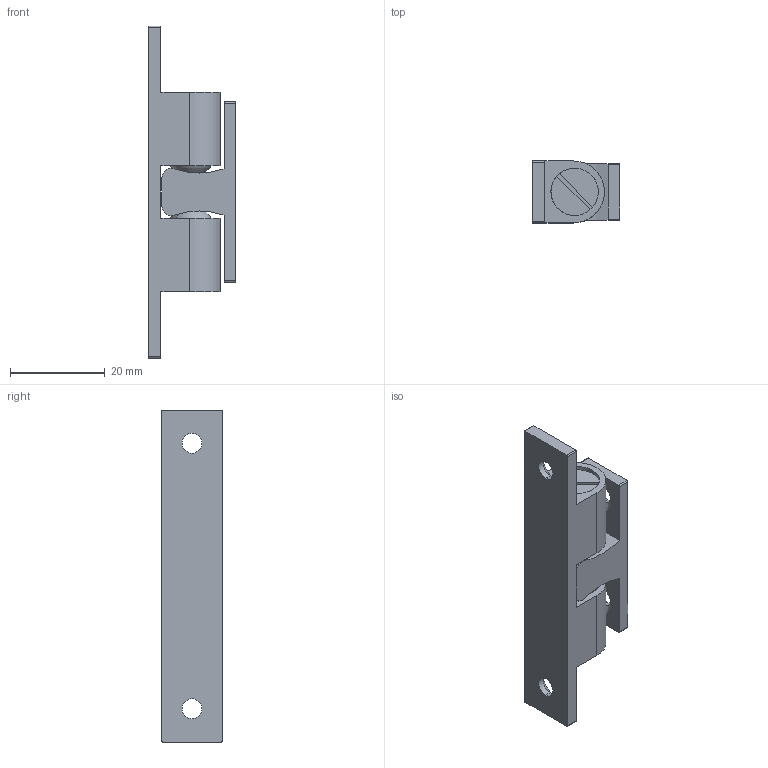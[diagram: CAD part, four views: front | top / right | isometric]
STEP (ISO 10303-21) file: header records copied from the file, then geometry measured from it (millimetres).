
FILE_DESCRIPTION (( 'STEP AP214' ), '1' );
FILE_NAME ('1.4033 Kuulasalpa 70.STEP', '2025-09-11T11:04:01', ( '' ), ( '' ), 'SwSTEP 2.0', 'SolidWorks 2025', '' );
FILE_SCHEMA (( 'AUTOMOTIVE_DESIGN' ));
Length unit declared in the file: millimetre
Products named in the file (1): 1.4033 Kuulasalpa 70
Bounding box: 18.5 x 13 x 70 mm (x, y, z)
Volume: 9224.8 mm3; surface area: 7039.9 mm2
Topology: 4 solids, 4 shells, 72 faces, 186 edges, 118 vertices
Faces by surface type: cylinder 30, plane 30, cone 8, sphere 4
Entity records: 2240 total; most frequent: DIRECTION 404, CARTESIAN_POINT 369, ORIENTED_EDGE 360, EDGE_CURVE 180, AXIS2_PLACEMENT_3D 151, VERTEX_POINT 116, LINE 102, VECTOR 102
